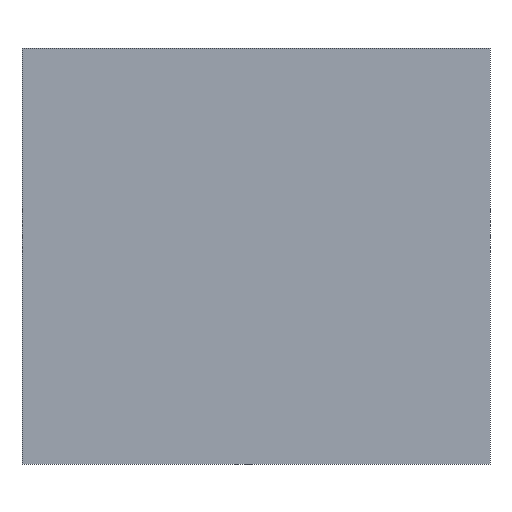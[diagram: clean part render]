
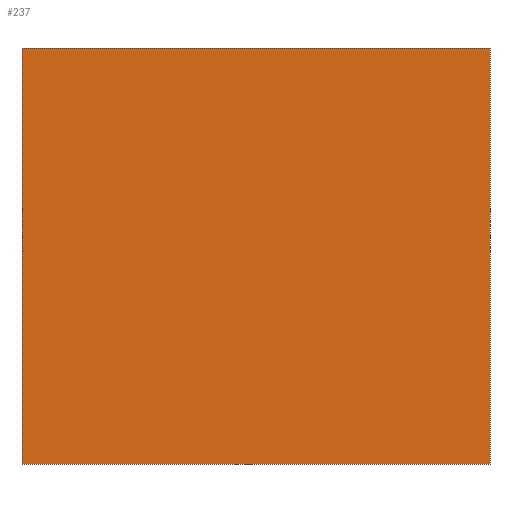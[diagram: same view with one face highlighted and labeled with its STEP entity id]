
A CAD part, front view. The second image highlights one B-rep face of the part: STEP entity #237.
In plain terms, the highlighted planar face has unit normal (0, -1, 0).
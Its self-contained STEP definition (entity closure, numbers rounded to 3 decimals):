
#21 = EDGE_CURVE('',#22,#24,#26,.T.);
#22 = VERTEX_POINT('',#23);
#23 = CARTESIAN_POINT('',(-2.25,-0.8,-2.));
#24 = VERTEX_POINT('',#25);
#25 = CARTESIAN_POINT('',(-2.25,-0.8,2.));
#26 = SURFACE_CURVE('',#27,(#31,#43),.PCURVE_S1.);
#27 = LINE('',#28,#29);
#28 = CARTESIAN_POINT('',(-2.25,-0.8,-2.));
#29 = VECTOR('',#30,1.);
#30 = DIRECTION('',(0.,0.,1.));
#31 = PCURVE('',#32,#37);
#32 = PLANE('',#33);
#33 = AXIS2_PLACEMENT_3D('',#34,#35,#36);
#34 = CARTESIAN_POINT('',(-2.25,-0.8,-2.));
#35 = DIRECTION('',(1.,0.,0.));
#36 = DIRECTION('',(0.,0.,1.));
#37 = DEFINITIONAL_REPRESENTATION('',(#38),#42);
#38 = LINE('',#39,#40);
#39 = CARTESIAN_POINT('',(0.,0.));
#40 = VECTOR('',#41,1.);
#41 = DIRECTION('',(1.,0.));
#42 = ( GEOMETRIC_REPRESENTATION_CONTEXT(2) 
PARAMETRIC_REPRESENTATION_CONTEXT() REPRESENTATION_CONTEXT('2D SPACE',''
  ) );
#43 = PCURVE('',#44,#49);
#44 = PLANE('',#45);
#45 = AXIS2_PLACEMENT_3D('',#46,#47,#48);
#46 = CARTESIAN_POINT('',(-2.25,-0.8,-2.));
#47 = DIRECTION('',(0.,1.,0.));
#48 = DIRECTION('',(0.,0.,1.));
#49 = DEFINITIONAL_REPRESENTATION('',(#50),#54);
#50 = LINE('',#51,#52);
#51 = CARTESIAN_POINT('',(0.,0.));
#52 = VECTOR('',#53,1.);
#53 = DIRECTION('',(1.,0.));
#54 = ( GEOMETRIC_REPRESENTATION_CONTEXT(2) 
PARAMETRIC_REPRESENTATION_CONTEXT() REPRESENTATION_CONTEXT('2D SPACE',''
  ) );
#72 = PLANE('',#73);
#73 = AXIS2_PLACEMENT_3D('',#74,#75,#76);
#74 = CARTESIAN_POINT('',(-2.25,-0.8,-2.));
#75 = DIRECTION('',(0.,0.,1.));
#76 = DIRECTION('',(1.,0.,0.));
#126 = PLANE('',#127);
#127 = AXIS2_PLACEMENT_3D('',#128,#129,#130);
#128 = CARTESIAN_POINT('',(-2.25,-0.8,2.));
#129 = DIRECTION('',(0.,0.,1.));
#130 = DIRECTION('',(1.,0.,0.));
#141 = EDGE_CURVE('',#142,#144,#146,.T.);
#142 = VERTEX_POINT('',#143);
#143 = CARTESIAN_POINT('',(2.25,-0.8,-2.));
#144 = VERTEX_POINT('',#145);
#145 = CARTESIAN_POINT('',(2.25,-0.8,2.));
#146 = SURFACE_CURVE('',#147,(#151,#163),.PCURVE_S1.);
#147 = LINE('',#148,#149);
#148 = CARTESIAN_POINT('',(2.25,-0.8,-2.));
#149 = VECTOR('',#150,1.);
#150 = DIRECTION('',(0.,0.,1.));
#151 = PCURVE('',#152,#157);
#152 = PLANE('',#153);
#153 = AXIS2_PLACEMENT_3D('',#154,#155,#156);
#154 = CARTESIAN_POINT('',(2.25,-0.8,-2.));
#155 = DIRECTION('',(1.,0.,0.));
#156 = DIRECTION('',(0.,0.,1.));
#157 = DEFINITIONAL_REPRESENTATION('',(#158),#162);
#158 = LINE('',#159,#160);
#159 = CARTESIAN_POINT('',(0.,0.));
#160 = VECTOR('',#161,1.);
#161 = DIRECTION('',(1.,0.));
#162 = ( GEOMETRIC_REPRESENTATION_CONTEXT(2) 
PARAMETRIC_REPRESENTATION_CONTEXT() REPRESENTATION_CONTEXT('2D SPACE',''
  ) );
#163 = PCURVE('',#44,#164);
#164 = DEFINITIONAL_REPRESENTATION('',(#165),#169);
#165 = LINE('',#166,#167);
#166 = CARTESIAN_POINT('',(0.,4.5));
#167 = VECTOR('',#168,1.);
#168 = DIRECTION('',(1.,0.));
#169 = ( GEOMETRIC_REPRESENTATION_CONTEXT(2) 
PARAMETRIC_REPRESENTATION_CONTEXT() REPRESENTATION_CONTEXT('2D SPACE',''
  ) );
#237 = ADVANCED_FACE('',(#238),#44,.F.);
#238 = FACE_BOUND('',#239,.F.);
#239 = EDGE_LOOP('',(#240,#261,#262,#283));
#240 = ORIENTED_EDGE('',*,*,#241,.F.);
#241 = EDGE_CURVE('',#22,#142,#242,.T.);
#242 = SURFACE_CURVE('',#243,(#247,#254),.PCURVE_S1.);
#243 = LINE('',#244,#245);
#244 = CARTESIAN_POINT('',(-2.25,-0.8,-2.));
#245 = VECTOR('',#246,1.);
#246 = DIRECTION('',(1.,0.,0.));
#247 = PCURVE('',#44,#248);
#248 = DEFINITIONAL_REPRESENTATION('',(#249),#253);
#249 = LINE('',#250,#251);
#250 = CARTESIAN_POINT('',(0.,0.));
#251 = VECTOR('',#252,1.);
#252 = DIRECTION('',(0.,1.));
#253 = ( GEOMETRIC_REPRESENTATION_CONTEXT(2) 
PARAMETRIC_REPRESENTATION_CONTEXT() REPRESENTATION_CONTEXT('2D SPACE',''
  ) );
#254 = PCURVE('',#72,#255);
#255 = DEFINITIONAL_REPRESENTATION('',(#256),#260);
#256 = LINE('',#257,#258);
#257 = CARTESIAN_POINT('',(0.,0.));
#258 = VECTOR('',#259,1.);
#259 = DIRECTION('',(1.,0.));
#260 = ( GEOMETRIC_REPRESENTATION_CONTEXT(2) 
PARAMETRIC_REPRESENTATION_CONTEXT() REPRESENTATION_CONTEXT('2D SPACE',''
  ) );
#261 = ORIENTED_EDGE('',*,*,#21,.T.);
#262 = ORIENTED_EDGE('',*,*,#263,.T.);
#263 = EDGE_CURVE('',#24,#144,#264,.T.);
#264 = SURFACE_CURVE('',#265,(#269,#276),.PCURVE_S1.);
#265 = LINE('',#266,#267);
#266 = CARTESIAN_POINT('',(-2.25,-0.8,2.));
#267 = VECTOR('',#268,1.);
#268 = DIRECTION('',(1.,0.,0.));
#269 = PCURVE('',#44,#270);
#270 = DEFINITIONAL_REPRESENTATION('',(#271),#275);
#271 = LINE('',#272,#273);
#272 = CARTESIAN_POINT('',(4.,0.));
#273 = VECTOR('',#274,1.);
#274 = DIRECTION('',(0.,1.));
#275 = ( GEOMETRIC_REPRESENTATION_CONTEXT(2) 
PARAMETRIC_REPRESENTATION_CONTEXT() REPRESENTATION_CONTEXT('2D SPACE',''
  ) );
#276 = PCURVE('',#126,#277);
#277 = DEFINITIONAL_REPRESENTATION('',(#278),#282);
#278 = LINE('',#279,#280);
#279 = CARTESIAN_POINT('',(0.,0.));
#280 = VECTOR('',#281,1.);
#281 = DIRECTION('',(1.,0.));
#282 = ( GEOMETRIC_REPRESENTATION_CONTEXT(2) 
PARAMETRIC_REPRESENTATION_CONTEXT() REPRESENTATION_CONTEXT('2D SPACE',''
  ) );
#283 = ORIENTED_EDGE('',*,*,#141,.F.);
